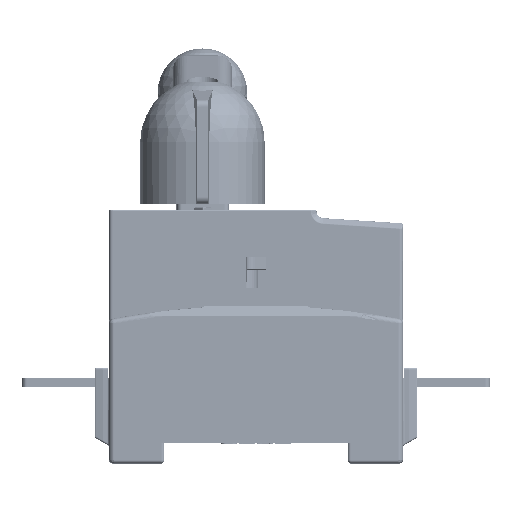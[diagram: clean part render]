
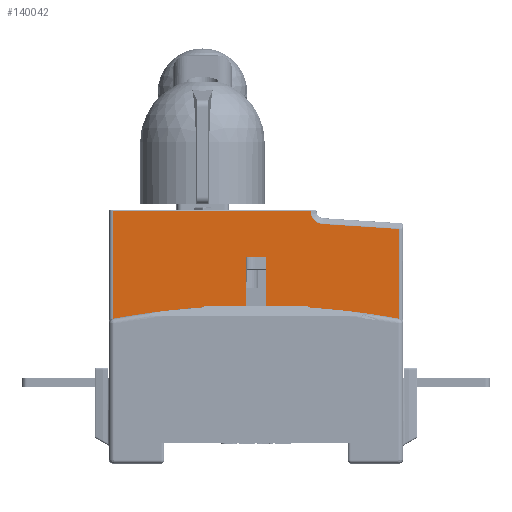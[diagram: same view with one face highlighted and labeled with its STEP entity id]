
A CAD part, left-side view. The second image highlights one B-rep face of the part: STEP entity #140042.
In plain terms, the highlighted planar face has unit normal (-1, 0, 0).
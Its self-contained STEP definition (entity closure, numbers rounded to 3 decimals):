
#133813=DIRECTION('',(0.,1.,0.));
#133814=VECTOR('',#133813,57.293);
#133815=CARTESIAN_POINT('',(-30.,-15.793,31.3));
#133816=LINE('',#133815,#133814);
#134138=DIRECTION('',(0.,0.,-1.));
#134139=VECTOR('',#134138,31.3);
#134140=CARTESIAN_POINT('',(-30.,41.5,31.3));
#134141=LINE('',#134140,#134139);
#134152=DIRECTION('',(0.,1.,0.));
#134153=VECTOR('',#134152,38.5);
#134154=CARTESIAN_POINT('',(-30.,-41.5,0.));
#134155=LINE('',#134154,#134153);
#134159=DIRECTION('',(0.,0.,1.));
#134160=VECTOR('',#134159,18.2);
#134161=CARTESIAN_POINT('',(-30.,-3.,0.));
#134162=LINE('',#134161,#134160);
#134166=DIRECTION('',(0.,1.,0.));
#134167=VECTOR('',#134166,6.);
#134168=CARTESIAN_POINT('',(-30.,-3.,18.2));
#134169=LINE('',#134168,#134167);
#134173=DIRECTION('',(0.,1.,0.));
#134174=VECTOR('',#134173,38.5);
#134175=CARTESIAN_POINT('',(-30.,3.,0.));
#134176=LINE('',#134175,#134174);
#134180=CARTESIAN_POINT('',(-30.,-19.5,31.3));
#134181=DIRECTION('',(-1.,0.,0.));
#134182=DIRECTION('',(0.,1.,0.));
#134183=AXIS2_PLACEMENT_3D('',#134180,#134181,#134182);
#134188=DIRECTION('',(0.,-0.998,-0.065));
#134189=VECTOR('',#134188,22.288);
#134190=CARTESIAN_POINT('',(-30.,-19.259,27.601));
#134191=LINE('',#134190,#134189);
#134202=DIRECTION('',(0.,0.,1.));
#134203=VECTOR('',#134202,26.154);
#134204=CARTESIAN_POINT('',(-30.,-41.5,0.));
#134205=LINE('',#134204,#134203);
#134366=DIRECTION('',(0.,0.,1.));
#134367=VECTOR('',#134366,18.2);
#134368=CARTESIAN_POINT('',(-30.,3.,0.));
#134369=LINE('',#134368,#134367);
#138736=CARTESIAN_POINT('',(-30.,-15.793,31.3));
#138737=VERTEX_POINT('',#138736);
#138738=CARTESIAN_POINT('',(-30.,41.5,31.3));
#138739=VERTEX_POINT('',#138738);
#138743=CARTESIAN_POINT('',(-30.,-19.259,27.601));
#138745=VERTEX_POINT('',#138743);
#138746=CARTESIAN_POINT('',(-30.,-41.5,26.154));
#138748=VERTEX_POINT('',#138746);
#138806=CARTESIAN_POINT('',(-30.,41.5,0.));
#138807=VERTEX_POINT('',#138806);
#138808=CARTESIAN_POINT('',(-30.,-41.5,0.));
#138809=VERTEX_POINT('',#138808);
#138810=CARTESIAN_POINT('',(-30.,-3.,0.));
#138811=VERTEX_POINT('',#138810);
#138812=CARTESIAN_POINT('',(-30.,-3.,18.2));
#138813=VERTEX_POINT('',#138812);
#138814=CARTESIAN_POINT('',(-30.,3.,18.2));
#138815=VERTEX_POINT('',#138814);
#138816=CARTESIAN_POINT('',(-30.,3.,0.));
#138817=VERTEX_POINT('',#138816);
#140019=CARTESIAN_POINT('',(-30.,-42.5,31.8));
#140020=DIRECTION('',(1.,0.,0.));
#140021=DIRECTION('',(0.,0.,-1.));
#140022=AXIS2_PLACEMENT_3D('',#140019,#140020,#140021);
#140023=PLANE('',#140022);
#140025=ORIENTED_EDGE('',*,*,#140024,.F.);
#140027=ORIENTED_EDGE('',*,*,#140026,.T.);
#140029=ORIENTED_EDGE('',*,*,#140028,.T.);
#140031=ORIENTED_EDGE('',*,*,#140030,.T.);
#140033=ORIENTED_EDGE('',*,*,#140032,.F.);
#140035=ORIENTED_EDGE('',*,*,#140034,.T.);
#140036=ORIENTED_EDGE('',*,*,#140009,.F.);
#140037=ORIENTED_EDGE('',*,*,#139620,.F.);
#140038=ORIENTED_EDGE('',*,*,#139648,.T.);
#140039=ORIENTED_EDGE('',*,*,#139663,.T.);
#140040=EDGE_LOOP('',(#140025,#140027,#140029,#140031,#140033,#140035,#140036,
#140037,#140038,#140039));
#140041=FACE_OUTER_BOUND('',#140040,.F.);
#134184=CIRCLE('',#134183,3.707);
#139620=EDGE_CURVE('',#138737,#138739,#133816,.T.);
#139648=EDGE_CURVE('',#138737,#138745,#134184,.T.);
#139663=EDGE_CURVE('',#138745,#138748,#134191,.T.);
#140009=EDGE_CURVE('',#138739,#138807,#134141,.T.);
#140024=EDGE_CURVE('',#138809,#138748,#134205,.T.);
#140026=EDGE_CURVE('',#138809,#138811,#134155,.T.);
#140028=EDGE_CURVE('',#138811,#138813,#134162,.T.);
#140030=EDGE_CURVE('',#138813,#138815,#134169,.T.);
#140032=EDGE_CURVE('',#138817,#138815,#134369,.T.);
#140034=EDGE_CURVE('',#138817,#138807,#134176,.T.);
#140042=ADVANCED_FACE('',(#140041),#140023,.F.);
